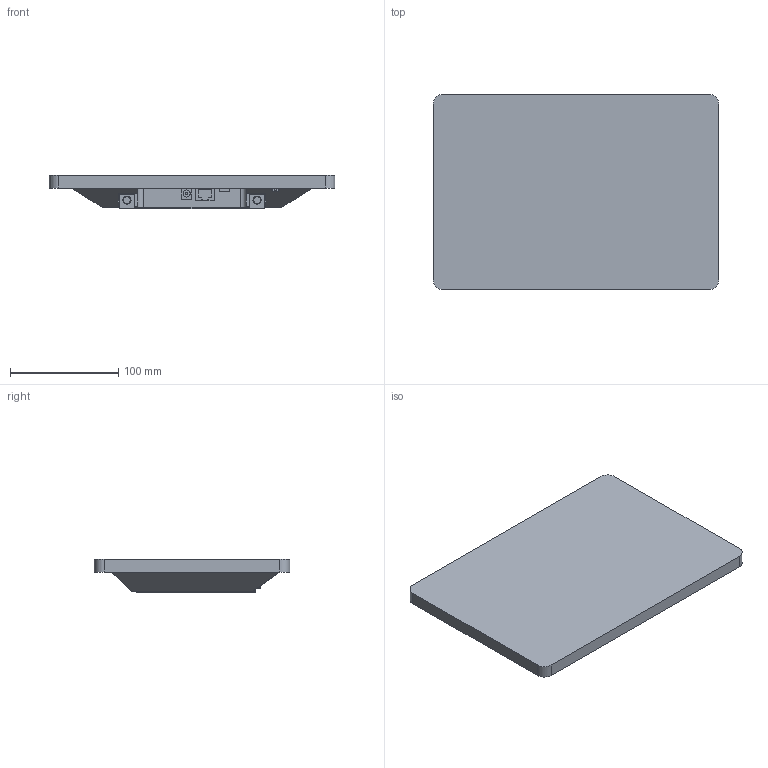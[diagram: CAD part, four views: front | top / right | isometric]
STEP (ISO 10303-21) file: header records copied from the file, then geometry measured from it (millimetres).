
FILE_DESCRIPTION (( 'STEP AP214' ), '1' );
FILE_NAME ('FG-901697-3D-A (WALL MOUNT).STEP', '2026-07-13T22:34:54', ( '' ), ( '' ), 'SwSTEP 2.0', 'SolidWorks 2023', '' );
FILE_SCHEMA (( 'AUTOMOTIVE_DESIGN' ));
Length unit declared in the file: millimetre
Products named in the file (1): FG-901697-3D-A (WALL MOUNT)
Bounding box: 263.37 x 180.25 x 30.8 mm (x, y, z)
Volume: 917759.3 mm3; surface area: 128469.8 mm2
Topology: 1 solids, 1 shells, 228 faces, 641 edges, 422 vertices
Faces by surface type: plane 154, cylinder 74
Entity records: 7438 total; most frequent: CARTESIAN_POINT 1292, ORIENTED_EDGE 1282, DIRECTION 1253, EDGE_CURVE 641, LINE 487, VECTOR 487, VERTEX_POINT 422, AXIS2_PLACEMENT_3D 383
